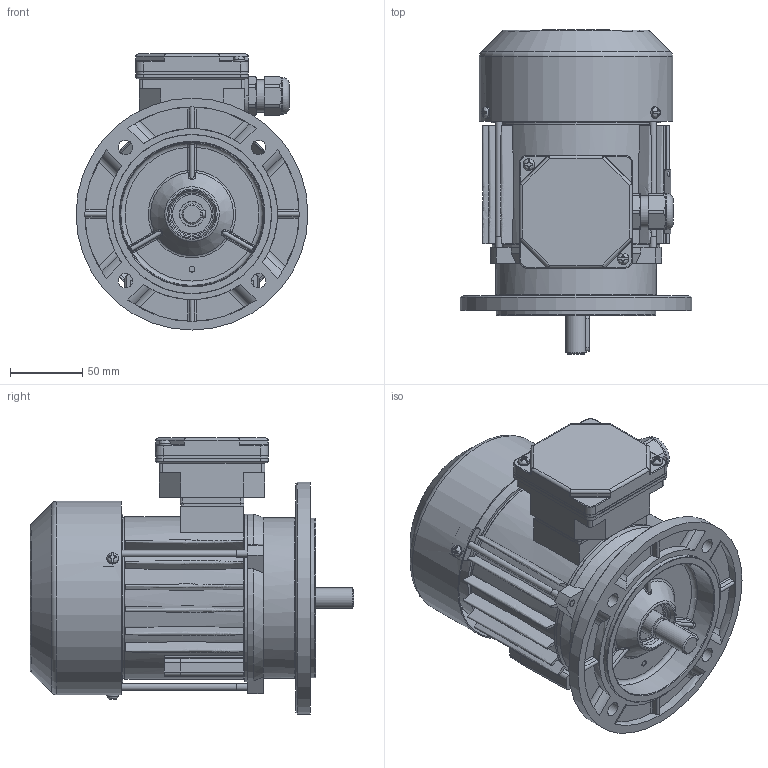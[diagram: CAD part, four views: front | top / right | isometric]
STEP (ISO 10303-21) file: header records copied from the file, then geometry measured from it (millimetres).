
FILE_DESCRIPTION( ( 'Unknown' ), '1' );
FILE_NAME( 'G:/Poczta Tk-1/STP/w.m.71/Sh71/SKh71-.A.stp', 'Unknown', ( 'K. Szlosek' ), ( 'BESEL S.A.' ), 'PSStep 17.0.49', 'Unknown', ' ' );
FILE_SCHEMA( ( 'AUTOMOTIVE_DESIGN { 1 0 10303 214 1 1 1 1 }' ) );
Length unit declared in the file: millimetre
Products named in the file (29): skrznka zaciskowa trójfazowa ; K4-2820 Uszczelka nr 2 Sh71,80; Dławnica M20x1,5; K2-0859 Podstawa skrzynki 6-cio zaciskowej; K2-0860 Pokrywka skrzynki zaciskowej; Assem1; K3-5958 Tarcza łożyskowa P Sh71 (dla dł. A); K1-1244 Tarcza kołnierzowa B5 w.m. 71; Wpust A5x5x25; Wkręt samogwintujący M4x8; Wkręt samogwintujący M4x16; K1-1194 Kadłub z zamkami Sh71-.B; K4-4122 Osłona przewietrznika Sh71-.A; K3-3984 Przewietrznik Sh71; K4-2320 Uszczelka nr 1 Sh71,80; K3-6688 Wał Standard Sh71-A; Nitokołek A 2x6; Łożysko 6203; Śruba ściągająca E_M5x110; Tabliczka znamionowa 32x44
Assembly tree (44 placements, depth 3):
  Assem1
    K3-5958 Tarcza łożyskowa P Sh71 (dla dł. A)
    K1-1244 Tarcza kołnierzowa B5 w.m. 71
    Wpust A5x5x25
    Wkręt samogwintujący M4x8  x3
    Wkręt samogwintujący M4x16  x2
    K1-1194 Kadłub z zamkami Sh71-.B
    K4-4122 Osłona przewietrznika Sh71-.A
    K3-3984 Przewietrznik Sh71
    K4-2320 Uszczelka nr 1 Sh71,80
    K3-6688 Wał Standard Sh71-A
    Nitokołek A 2x6  x2
    Łożysko 6203  x2
    Łożysko 6203  x2
    Łożysko 6203  x2
    Łożysko 6203  x2
    Łożysko 6203  x2
    Łożysko 6203  x2
    Łożysko 6203  x2
    Łożysko 6203  x2
    Łożysko 6203  x2
    Łożysko 6203  x2
    Śruba ściągająca E_M5x110  x3
    Tabliczka znamionowa 32x44
    skrznka zaciskowa trójfazowa 
      K4-2820 Uszczelka nr 2 Sh71,80
      Dławnica M20x1,5
      K2-0859 Podstawa skrzynki 6-cio zaciskowej
      K2-0860 Pokrywka skrzynki zaciskowej
Bounding box: 160 x 223.5 x 190.5 mm (x, y, z)
Volume: 633987.5 mm3; surface area: 403507 mm2
Topology: 43 solids, 59 shells, 1769 faces, 4890 edges, 3209 vertices
Faces by surface type: plane 863, cylinder 592, cone 106, bspline 88, torus 86, sphere 34
Full cylindrical faces by diameter (mm): 2 x2, 2.4 x2, 3.7 x7, 3.8 x4, 4 x6, 4.2 x3, 4.5 x1, 4.6 x3, 4.8 x4, 5 x7, 5.5 x3, 7 x1, 8 x9, 10 x4, 13.6 x1, 14 x1, 15.9 x1, 16.1 x1, 16.5 x1, 16.6 x2, 17 x4, 17.4 x2, 18.376 x1, 18.38 x1, 20 x1, 22 x2, 22.3 x1, 22.5 x1, 22.7 x1, 23 x2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
Entity records: 70852 total; most frequent: CARTESIAN_POINT 22511, ORIENTED_EDGE 8362, DIRECTION 8181, EDGE_CURVE 4181, AXIS2_PLACEMENT_3D 3031, VERTEX_POINT 2882, LINE 2119, VECTOR 2119
